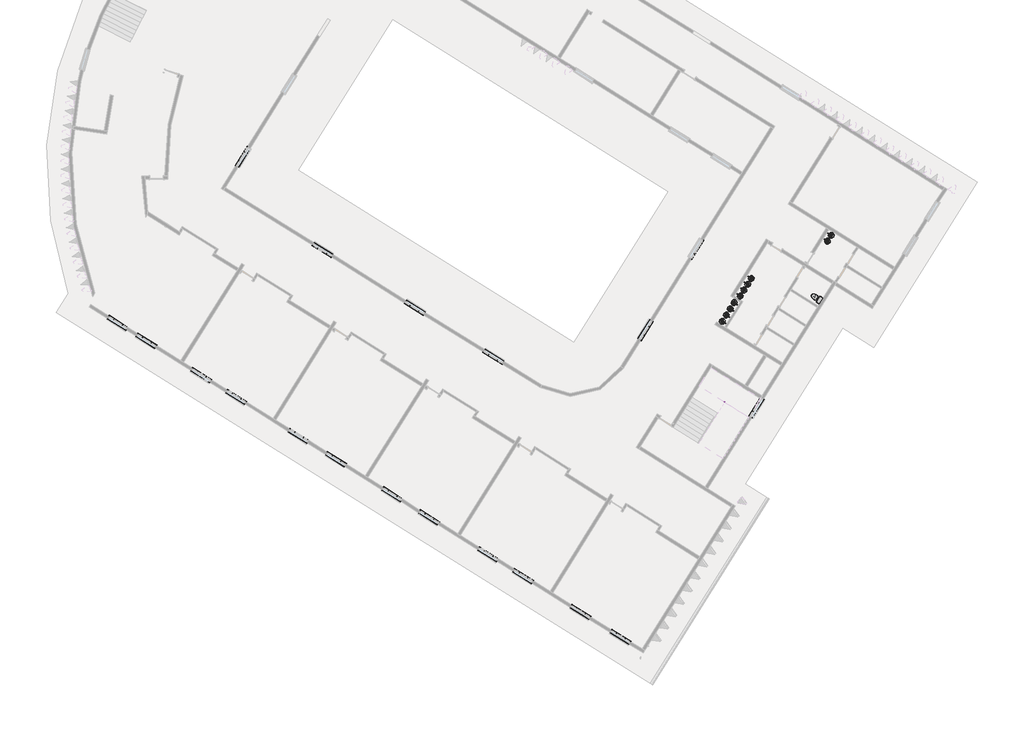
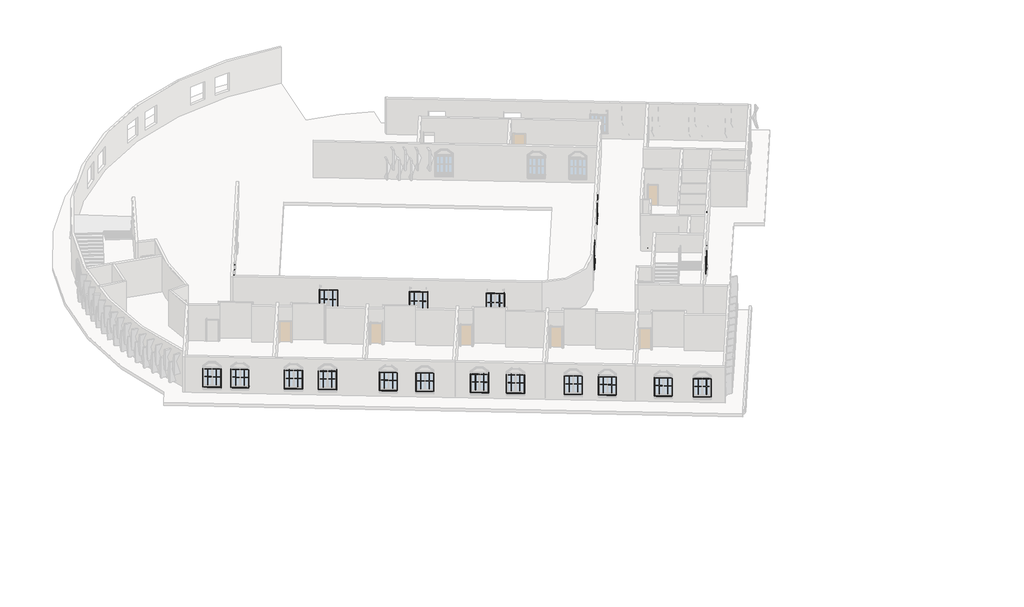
# One storey, part 6 of 7: 74 proxies, 11 flow terminals, 1 member.
"""IFC4 building model written with IfcOpenShell, lengths in millimetres."""

from ifc_helpers import new_model, si_unit, frame, origin, place, context, project, spatial, polyline, outline, extrude, transform, mapped, element, save
from components import m_muntin_pattern_2x2_m_muntin_pattern_2x2_d2d4b859, m_muntin_pattern_2x2_m_muntin_pattern_2x2_f3921bb5, m_trim_window_exterior_flat_with_sill_136e302d, m_trim_window_exterior_flat_with_sill_88aaac3a, m_trim_window_interior_flat_picture_frame_c6c50358, m_trim_window_interior_flat_picture_frame_896fcfd1, ada_tank_toilet_4267_toilet_domestic_3d_1f2812d0, ada_tank_toilet_4267_toilet_domestic_3d_e2a5b10f, sink_bathroom_modern_shelf_2_sink_bathroom_modern_shelf_2_e763d6b9

model = new_model("IFC4")

# Units and contexts
model_context = context("Model", 3, world=origin())
ifc_project = project(units=[si_unit("LENGTHUNIT", "METRE", prefix="MILLI")], contexts=[model_context])

# Site, building, storey
site = spatial("IfcSite", under=ifc_project)
building = spatial("IfcBuilding", under=site)
storey = spatial("IfcBuildingStorey", under=building, Name="\u200fطبقه اول", Elevation=3600.0)

# Proxies
placement = place(None, origin())
m_muntin_pattern_2x2_m_muntin_pattern_2x2_shape = m_muntin_pattern_2x2_m_muntin_pattern_2x2_d2d4b859(model_context)
element("IfcBuildingElementProxy", 1, Name="M_Muntin Pattern_2x2 : M_Muntin Pattern_2x2", ObjectType="M_Muntin Pattern_2x2 : M_Muntin Pattern_2x2", at=placement, inside=storey, context=model_context, shape_type="MappedRepresentation", body=[
    mapped(m_muntin_pattern_2x2_m_muntin_pattern_2x2_shape, transform((6148.6329445, -44887.3965533, 4269.85), x_axis=(0.8480480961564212, -0.5299192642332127, 0.0), y_axis=(0.5299192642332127, 0.8480480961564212, 0.0), z_axis=(0.0, 0.0, 1.0))),
])
element("IfcBuildingElementProxy", 2, Name="M_Muntin Pattern_2x2 : M_Muntin Pattern_2x2", ObjectType="M_Muntin Pattern_2x2 : M_Muntin Pattern_2x2", at=placement, inside=storey, context=model_context, shape_type="MappedRepresentation", body=[
    mapped(m_muntin_pattern_2x2_m_muntin_pattern_2x2_shape, transform((8099.1435657, -46106.210861, 4269.85), x_axis=(0.8480480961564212, -0.5299192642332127, 0.0), y_axis=(0.5299192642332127, 0.8480480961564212, 0.0), z_axis=(0.0, 0.0, 1.0))),
])
element("IfcBuildingElementProxy", 3, Name="M_Muntin Pattern_2x2 : M_Muntin Pattern_2x2", ObjectType="M_Muntin Pattern_2x2 : M_Muntin Pattern_2x2", at=placement, inside=storey, context=model_context, shape_type="MappedRepresentation", body=[
    mapped(m_muntin_pattern_2x2_m_muntin_pattern_2x2_shape, transform((11830.5551888, -48437.8556236, 4269.85), x_axis=(0.8480480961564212, -0.5299192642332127, 0.0), y_axis=(0.5299192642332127, 0.8480480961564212, 0.0), z_axis=(0.0, 0.0, 1.0))),
])
element("IfcBuildingElementProxy", 4, Name="M_Muntin Pattern_2x2 : M_Muntin Pattern_2x2", ObjectType="M_Muntin Pattern_2x2 : M_Muntin Pattern_2x2", at=placement, inside=storey, context=model_context, shape_type="MappedRepresentation", body=[
    mapped(m_muntin_pattern_2x2_m_muntin_pattern_2x2_shape, transform((14205.089858, -49921.6295635, 4269.85), x_axis=(0.8480480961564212, -0.5299192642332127, 0.0), y_axis=(0.5299192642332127, 0.8480480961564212, 0.0), z_axis=(0.0, 0.0, 1.0))),
])
element("IfcBuildingElementProxy", 5, Name="M_Muntin Pattern_2x2 : M_Muntin Pattern_2x2", ObjectType="M_Muntin Pattern_2x2 : M_Muntin Pattern_2x2", at=placement, inside=storey, context=model_context, shape_type="MappedRepresentation", body=[
    mapped(m_muntin_pattern_2x2_m_muntin_pattern_2x2_shape, transform((18445.3303388, -52571.2258846, 4269.85), x_axis=(0.8480480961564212, -0.5299192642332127, 0.0), y_axis=(0.5299192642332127, 0.8480480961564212, 0.0), z_axis=(0.0, 0.0, 1.0))),
])
element("IfcBuildingElementProxy", 6, Name="M_Muntin Pattern_2x2 : M_Muntin Pattern_2x2", ObjectType="M_Muntin Pattern_2x2 : M_Muntin Pattern_2x2", at=placement, inside=storey, context=model_context, shape_type="MappedRepresentation", body=[
    mapped(m_muntin_pattern_2x2_m_muntin_pattern_2x2_shape, transform((20989.4746273, -54160.9836773, 4269.85), x_axis=(0.8480480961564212, -0.5299192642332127, 0.0), y_axis=(0.5299192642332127, 0.8480480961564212, 0.0), z_axis=(0.0, 0.0, 1.0))),
])
element("IfcBuildingElementProxy", 7, Name="M_Muntin Pattern_2x2 : M_Muntin Pattern_2x2", ObjectType="M_Muntin Pattern_2x2 : M_Muntin Pattern_2x2", at=placement, inside=storey, context=model_context, shape_type="MappedRepresentation", body=[
    mapped(m_muntin_pattern_2x2_m_muntin_pattern_2x2_shape, transform((24805.69106, -56545.6203664, 4269.85), x_axis=(0.8480480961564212, -0.5299192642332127, 0.0), y_axis=(0.5299192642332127, 0.8480480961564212, 0.0), z_axis=(0.0, 0.0, 1.0))),
])
element("IfcBuildingElementProxy", 8, Name="M_Muntin Pattern_2x2 : M_Muntin Pattern_2x2", ObjectType="M_Muntin Pattern_2x2 : M_Muntin Pattern_2x2", at=placement, inside=storey, context=model_context, shape_type="MappedRepresentation", body=[
    mapped(m_muntin_pattern_2x2_m_muntin_pattern_2x2_shape, transform((27307.4329436, -58108.8821959, 4269.85), x_axis=(0.8480480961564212, -0.5299192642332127, 0.0), y_axis=(0.5299192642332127, 0.8480480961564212, 0.0), z_axis=(0.0, 0.0, 1.0))),
])
element("IfcBuildingElementProxy", 9, Name="M_Muntin Pattern_2x2 : M_Muntin Pattern_2x2", ObjectType="M_Muntin Pattern_2x2 : M_Muntin Pattern_2x2", at=placement, inside=storey, context=model_context, shape_type="MappedRepresentation", body=[
    mapped(m_muntin_pattern_2x2_m_muntin_pattern_2x2_shape, transform((31335.6614004, -60625.998701, 4269.85), x_axis=(0.8480480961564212, -0.5299192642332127, 0.0), y_axis=(0.5299192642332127, 0.8480480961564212, 0.0), z_axis=(0.0, 0.0, 1.0))),
])
element("IfcBuildingElementProxy", 10, Name="M_Muntin Pattern_2x2 : M_Muntin Pattern_2x2", ObjectType="M_Muntin Pattern_2x2 : M_Muntin Pattern_2x2", at=placement, inside=storey, context=model_context, shape_type="MappedRepresentation", body=[
    mapped(m_muntin_pattern_2x2_m_muntin_pattern_2x2_shape, transform((33710.1960696, -62109.7726408, 4269.85), x_axis=(0.8480480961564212, -0.5299192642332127, 0.0), y_axis=(0.5299192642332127, 0.8480480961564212, 0.0), z_axis=(0.0, 0.0, 1.0))),
])
element("IfcBuildingElementProxy", 11, Name="M_Muntin Pattern_2x2 : M_Muntin Pattern_2x2", ObjectType="M_Muntin Pattern_2x2 : M_Muntin Pattern_2x2", at=placement, inside=storey, context=model_context, shape_type="MappedRepresentation", body=[
    mapped(m_muntin_pattern_2x2_m_muntin_pattern_2x2_shape, transform((37611.2173119, -64547.4012563, 4269.85), x_axis=(0.8480480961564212, -0.5299192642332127, 0.0), y_axis=(0.5299192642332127, 0.8480480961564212, 0.0), z_axis=(0.0, 0.0, 1.0))),
])
element("IfcBuildingElementProxy", 12, Name="M_Muntin Pattern_2x2 : M_Muntin Pattern_2x2", ObjectType="M_Muntin Pattern_2x2 : M_Muntin Pattern_2x2", at=placement, inside=storey, context=model_context, shape_type="MappedRepresentation", body=[
    mapped(m_muntin_pattern_2x2_m_muntin_pattern_2x2_shape, transform((40324.9712196, -66243.1429019, 4269.85), x_axis=(0.8480480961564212, -0.5299192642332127, 0.0), y_axis=(0.5299192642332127, 0.8480480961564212, 0.0), z_axis=(0.0, 0.0, 1.0))),
])
element("IfcBuildingElementProxy", 13, Name="M_Muntin Pattern_2x2 : M_Muntin Pattern_2x2", ObjectType="M_Muntin Pattern_2x2 : M_Muntin Pattern_2x2", at=placement, inside=storey, context=model_context, shape_type="MappedRepresentation", body=[
    mapped(m_muntin_pattern_2x2_m_muntin_pattern_2x2_shape, transform((42537.763851, -45383.5187796, 4269.85), x_axis=(-0.5299192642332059, -0.8480480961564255, 0.0), y_axis=(0.8480480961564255, -0.5299192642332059, 0.0), z_axis=(0.0, 0.0, 1.0))),
])
element("IfcBuildingElementProxy", 14, Name="M_Muntin Pattern_2x2 : M_Muntin Pattern_2x2", ObjectType="M_Muntin Pattern_2x2 : M_Muntin Pattern_2x2", at=placement, inside=storey, context=model_context, shape_type="MappedRepresentation", body=[
    mapped(m_muntin_pattern_2x2_m_muntin_pattern_2x2_shape, transform((32197.2727027, -47699.294205, 4269.85), x_axis=(-0.8480480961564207, 0.5299192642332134, 0.0), y_axis=(-0.5299192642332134, -0.8480480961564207, 0.0), z_axis=(0.0, 0.0, 1.0))),
])
element("IfcBuildingElementProxy", 15, Name="M_Muntin Pattern_2x2 : M_Muntin Pattern_2x2", ObjectType="M_Muntin Pattern_2x2 : M_Muntin Pattern_2x2", at=placement, inside=storey, context=model_context, shape_type="MappedRepresentation", body=[
    mapped(m_muntin_pattern_2x2_m_muntin_pattern_2x2_shape, transform((26854.5696969, -44360.8028403, 4269.85), x_axis=(-0.8480480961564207, 0.5299192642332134, 0.0), y_axis=(-0.5299192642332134, -0.8480480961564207, 0.0), z_axis=(0.0, 0.0, 1.0))),
])
element("IfcBuildingElementProxy", 16, Name="M_Muntin Pattern_2x2 : M_Muntin Pattern_2x2", ObjectType="M_Muntin Pattern_2x2 : M_Muntin Pattern_2x2", at=placement, inside=storey, context=model_context, shape_type="MappedRepresentation", body=[
    mapped(m_muntin_pattern_2x2_m_muntin_pattern_2x2_shape, transform((20579.0137853, -40439.400285, 4269.85), x_axis=(-0.8480480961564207, 0.5299192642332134, 0.0), y_axis=(-0.5299192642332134, -0.8480480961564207, 0.0), z_axis=(0.0, 0.0, 1.0))),
])
element("IfcBuildingElementProxy", 17, Name="M_Muntin Pattern_2x2 : M_Muntin Pattern_2x2", ObjectType="M_Muntin Pattern_2x2 : M_Muntin Pattern_2x2", at=placement, inside=storey, context=model_context, shape_type="MappedRepresentation", body=[
    mapped(m_muntin_pattern_2x2_m_muntin_pattern_2x2_shape, transform((14655.6274228, -34094.2678537, 4269.85), x_axis=(0.52991926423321, 0.8480480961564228, 0.0), y_axis=(-0.8480480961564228, 0.52991926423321, 0.0), z_axis=(0.0, 0.0, 1.0))),
])
element("IfcBuildingElementProxy", 18, Name="M_Muntin Pattern_2x2 : M_Muntin Pattern_2x2", ObjectType="M_Muntin Pattern_2x2 : M_Muntin Pattern_2x2", at=placement, inside=storey, context=model_context, shape_type="MappedRepresentation", body=[
    mapped(m_muntin_pattern_2x2_m_muntin_pattern_2x2_shape, transform((49571.9375757, -51146.1608436, 4269.85), x_axis=(0.5299192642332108, 0.8480480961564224, 0.0), y_axis=(-0.8480480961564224, 0.5299192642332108, 0.0), z_axis=(0.0, 0.0, 1.0))),
])
m_muntin_pattern_2x2_m_muntin_pattern_2x2_2_shape = m_muntin_pattern_2x2_m_muntin_pattern_2x2_f3921bb5(model_context)
element("IfcBuildingElementProxy", 19, Name="M_Muntin Pattern_2x2 : M_Muntin Pattern_2x2", ObjectType="M_Muntin Pattern_2x2 : M_Muntin Pattern_2x2", at=placement, inside=storey, context=model_context, shape_type="MappedRepresentation", body=[
    mapped(m_muntin_pattern_2x2_m_muntin_pattern_2x2_2_shape, transform((6739.5740591, -45256.6575446, 4269.85), x_axis=(-0.8480480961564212, 0.5299192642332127, 0.0), y_axis=(-0.5299192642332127, -0.8480480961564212, 0.0), z_axis=(0.0, 0.0, 1.0))),
])
element("IfcBuildingElementProxy", 20, Name="M_Muntin Pattern_2x2 : M_Muntin Pattern_2x2", ObjectType="M_Muntin Pattern_2x2 : M_Muntin Pattern_2x2", at=placement, inside=storey, context=model_context, shape_type="MappedRepresentation", body=[
    mapped(m_muntin_pattern_2x2_m_muntin_pattern_2x2_2_shape, transform((8690.0846803, -46475.4718523, 4269.85), x_axis=(-0.8480480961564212, 0.5299192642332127, 0.0), y_axis=(-0.5299192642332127, -0.8480480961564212, 0.0), z_axis=(0.0, 0.0, 1.0))),
])
element("IfcBuildingElementProxy", 21, Name="M_Muntin Pattern_2x2 : M_Muntin Pattern_2x2", ObjectType="M_Muntin Pattern_2x2 : M_Muntin Pattern_2x2", at=placement, inside=storey, context=model_context, shape_type="MappedRepresentation", body=[
    mapped(m_muntin_pattern_2x2_m_muntin_pattern_2x2_2_shape, transform((12421.4963034, -48807.1166149, 4269.85), x_axis=(-0.8480480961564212, 0.5299192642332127, 0.0), y_axis=(-0.5299192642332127, -0.8480480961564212, 0.0), z_axis=(0.0, 0.0, 1.0))),
])
element("IfcBuildingElementProxy", 22, Name="M_Muntin Pattern_2x2 : M_Muntin Pattern_2x2", ObjectType="M_Muntin Pattern_2x2 : M_Muntin Pattern_2x2", at=placement, inside=storey, context=model_context, shape_type="MappedRepresentation", body=[
    mapped(m_muntin_pattern_2x2_m_muntin_pattern_2x2_2_shape, transform((14796.0309726, -50290.8905548, 4269.85), x_axis=(-0.8480480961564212, 0.5299192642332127, 0.0), y_axis=(-0.5299192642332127, -0.8480480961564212, 0.0), z_axis=(0.0, 0.0, 1.0))),
])
element("IfcBuildingElementProxy", 23, Name="M_Muntin Pattern_2x2 : M_Muntin Pattern_2x2", ObjectType="M_Muntin Pattern_2x2 : M_Muntin Pattern_2x2", at=placement, inside=storey, context=model_context, shape_type="MappedRepresentation", body=[
    mapped(m_muntin_pattern_2x2_m_muntin_pattern_2x2_2_shape, transform((19036.2714534, -52940.4868759, 4269.85), x_axis=(-0.8480480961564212, 0.5299192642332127, 0.0), y_axis=(-0.5299192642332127, -0.8480480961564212, 0.0), z_axis=(0.0, 0.0, 1.0))),
])
element("IfcBuildingElementProxy", 24, Name="M_Muntin Pattern_2x2 : M_Muntin Pattern_2x2", ObjectType="M_Muntin Pattern_2x2 : M_Muntin Pattern_2x2", at=placement, inside=storey, context=model_context, shape_type="MappedRepresentation", body=[
    mapped(m_muntin_pattern_2x2_m_muntin_pattern_2x2_2_shape, transform((21580.4157419, -54530.2446686, 4269.85), x_axis=(-0.8480480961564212, 0.5299192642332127, 0.0), y_axis=(-0.5299192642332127, -0.8480480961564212, 0.0), z_axis=(0.0, 0.0, 1.0))),
])
element("IfcBuildingElementProxy", 25, Name="M_Muntin Pattern_2x2 : M_Muntin Pattern_2x2", ObjectType="M_Muntin Pattern_2x2 : M_Muntin Pattern_2x2", at=placement, inside=storey, context=model_context, shape_type="MappedRepresentation", body=[
    mapped(m_muntin_pattern_2x2_m_muntin_pattern_2x2_2_shape, transform((25396.6321746, -56914.8813577, 4269.85), x_axis=(-0.8480480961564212, 0.5299192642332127, 0.0), y_axis=(-0.5299192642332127, -0.8480480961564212, 0.0), z_axis=(0.0, 0.0, 1.0))),
])
element("IfcBuildingElementProxy", 26, Name="M_Muntin Pattern_2x2 : M_Muntin Pattern_2x2", ObjectType="M_Muntin Pattern_2x2 : M_Muntin Pattern_2x2", at=placement, inside=storey, context=model_context, shape_type="MappedRepresentation", body=[
    mapped(m_muntin_pattern_2x2_m_muntin_pattern_2x2_2_shape, transform((27898.3740582, -58478.1431872, 4269.85), x_axis=(-0.8480480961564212, 0.5299192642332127, 0.0), y_axis=(-0.5299192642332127, -0.8480480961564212, 0.0), z_axis=(0.0, 0.0, 1.0))),
])
element("IfcBuildingElementProxy", 27, Name="M_Muntin Pattern_2x2 : M_Muntin Pattern_2x2", ObjectType="M_Muntin Pattern_2x2 : M_Muntin Pattern_2x2", at=placement, inside=storey, context=model_context, shape_type="MappedRepresentation", body=[
    mapped(m_muntin_pattern_2x2_m_muntin_pattern_2x2_2_shape, transform((31926.602515, -60995.2596923, 4269.85), x_axis=(-0.8480480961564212, 0.5299192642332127, 0.0), y_axis=(-0.5299192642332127, -0.8480480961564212, 0.0), z_axis=(0.0, 0.0, 1.0))),
])
element("IfcBuildingElementProxy", 28, Name="M_Muntin Pattern_2x2 : M_Muntin Pattern_2x2", ObjectType="M_Muntin Pattern_2x2 : M_Muntin Pattern_2x2", at=placement, inside=storey, context=model_context, shape_type="MappedRepresentation", body=[
    mapped(m_muntin_pattern_2x2_m_muntin_pattern_2x2_2_shape, transform((34301.1371842, -62479.0336321, 4269.85), x_axis=(-0.8480480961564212, 0.5299192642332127, 0.0), y_axis=(-0.5299192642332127, -0.8480480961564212, 0.0), z_axis=(0.0, 0.0, 1.0))),
])
element("IfcBuildingElementProxy", 29, Name="M_Muntin Pattern_2x2 : M_Muntin Pattern_2x2", ObjectType="M_Muntin Pattern_2x2 : M_Muntin Pattern_2x2", at=placement, inside=storey, context=model_context, shape_type="MappedRepresentation", body=[
    mapped(m_muntin_pattern_2x2_m_muntin_pattern_2x2_2_shape, transform((38202.1584265, -64916.6622476, 4269.85), x_axis=(-0.8480480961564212, 0.5299192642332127, 0.0), y_axis=(-0.5299192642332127, -0.8480480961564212, 0.0), z_axis=(0.0, 0.0, 1.0))),
])
element("IfcBuildingElementProxy", 30, Name="M_Muntin Pattern_2x2 : M_Muntin Pattern_2x2", ObjectType="M_Muntin Pattern_2x2 : M_Muntin Pattern_2x2", at=placement, inside=storey, context=model_context, shape_type="MappedRepresentation", body=[
    mapped(m_muntin_pattern_2x2_m_muntin_pattern_2x2_2_shape, transform((40915.9123342, -66612.4038932, 4269.85), x_axis=(-0.8480480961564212, 0.5299192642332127, 0.0), y_axis=(-0.5299192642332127, -0.8480480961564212, 0.0), z_axis=(0.0, 0.0, 1.0))),
])
element("IfcBuildingElementProxy", 31, Name="M_Muntin Pattern_2x2 : M_Muntin Pattern_2x2", ObjectType="M_Muntin Pattern_2x2 : M_Muntin Pattern_2x2", at=placement, inside=storey, context=model_context, shape_type="MappedRepresentation", body=[
    mapped(m_muntin_pattern_2x2_m_muntin_pattern_2x2_2_shape, transform((45617.9442334, -40454.1997581, 4269.85), x_axis=(0.5299192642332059, 0.8480480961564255, 0.0), y_axis=(-0.8480480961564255, 0.5299192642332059, 0.0), z_axis=(0.0, 0.0, 1.0))),
])
element("IfcBuildingElementProxy", 32, Name="M_Muntin Pattern_2x2 : M_Muntin Pattern_2x2", ObjectType="M_Muntin Pattern_2x2 : M_Muntin Pattern_2x2", at=placement, inside=storey, context=model_context, shape_type="MappedRepresentation", body=[
    mapped(m_muntin_pattern_2x2_m_muntin_pattern_2x2_2_shape, transform((42168.5028597, -45974.4598942, 4269.85), x_axis=(0.5299192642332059, 0.8480480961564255, 0.0), y_axis=(-0.8480480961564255, 0.5299192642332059, 0.0), z_axis=(0.0, 0.0, 1.0))),
])
element("IfcBuildingElementProxy", 33, Name="M_Muntin Pattern_2x2 : M_Muntin Pattern_2x2", ObjectType="M_Muntin Pattern_2x2 : M_Muntin Pattern_2x2", at=placement, inside=storey, context=model_context, shape_type="MappedRepresentation", body=[
    mapped(m_muntin_pattern_2x2_m_muntin_pattern_2x2_2_shape, transform((31606.3315881, -47330.0332137, 4269.85), x_axis=(0.8480480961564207, -0.5299192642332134, 0.0), y_axis=(0.5299192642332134, 0.8480480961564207, 0.0), z_axis=(0.0, 0.0, 1.0))),
])
element("IfcBuildingElementProxy", 34, Name="M_Muntin Pattern_2x2 : M_Muntin Pattern_2x2", ObjectType="M_Muntin Pattern_2x2 : M_Muntin Pattern_2x2", at=placement, inside=storey, context=model_context, shape_type="MappedRepresentation", body=[
    mapped(m_muntin_pattern_2x2_m_muntin_pattern_2x2_2_shape, transform((26263.6285823, -43991.541849, 4269.85), x_axis=(0.8480480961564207, -0.5299192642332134, 0.0), y_axis=(0.5299192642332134, 0.8480480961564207, 0.0), z_axis=(0.0, 0.0, 1.0))),
])
element("IfcBuildingElementProxy", 35, Name="M_Muntin Pattern_2x2 : M_Muntin Pattern_2x2", ObjectType="M_Muntin Pattern_2x2 : M_Muntin Pattern_2x2", at=placement, inside=storey, context=model_context, shape_type="MappedRepresentation", body=[
    mapped(m_muntin_pattern_2x2_m_muntin_pattern_2x2_2_shape, transform((19988.0726707, -40070.1392937, 4269.85), x_axis=(0.8480480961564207, -0.5299192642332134, 0.0), y_axis=(0.5299192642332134, 0.8480480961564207, 0.0), z_axis=(0.0, 0.0, 1.0))),
])
element("IfcBuildingElementProxy", 36, Name="M_Muntin Pattern_2x2 : M_Muntin Pattern_2x2", ObjectType="M_Muntin Pattern_2x2 : M_Muntin Pattern_2x2", at=placement, inside=storey, context=model_context, shape_type="MappedRepresentation", body=[
    mapped(m_muntin_pattern_2x2_m_muntin_pattern_2x2_2_shape, transform((15024.8884141, -33503.3267391, 4269.85), x_axis=(-0.52991926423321, -0.8480480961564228, 0.0), y_axis=(0.8480480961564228, -0.52991926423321, 0.0), z_axis=(0.0, 0.0, 1.0))),
])
element("IfcBuildingElementProxy", 37, Name="M_Muntin Pattern_2x2 : M_Muntin Pattern_2x2", ObjectType="M_Muntin Pattern_2x2 : M_Muntin Pattern_2x2", at=placement, inside=storey, context=model_context, shape_type="MappedRepresentation", body=[
    mapped(m_muntin_pattern_2x2_m_muntin_pattern_2x2_2_shape, transform((49941.198567, -50555.219729, 4269.85), x_axis=(-0.5299192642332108, -0.8480480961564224, 0.0), y_axis=(0.8480480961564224, -0.5299192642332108, 0.0), z_axis=(0.0, 0.0, 1.0))),
])
m_trim_window_exterior_flat_with_sill_shape = m_trim_window_exterior_flat_with_sill_136e302d(model_context)
element("IfcBuildingElementProxy", 38, Name="M_Trim-Window-Exterior-Flat : with Sill", ObjectType="M_Trim-Window-Exterior-Flat : with Sill", at=placement, inside=storey, context=model_context, shape_type="MappedRepresentation", body=[
    mapped(m_trim_window_exterior_flat_with_sill_shape, transform((6449.1509828, -45063.9493908, 6000.0), x_axis=(-0.8480480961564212, 0.5299192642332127, 0.0), y_axis=(0.0, 0.0, 1.0), z_axis=(0.5299192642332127, 0.8480480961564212, 0.0))),
])
element("IfcBuildingElementProxy", 39, Name="M_Trim-Window-Exterior-Flat : with Sill", ObjectType="M_Trim-Window-Exterior-Flat : with Sill", at=placement, inside=storey, context=model_context, shape_type="MappedRepresentation", body=[
    mapped(m_trim_window_exterior_flat_with_sill_shape, transform((8399.661604, -46282.7636985, 6000.0), x_axis=(-0.8480480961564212, 0.5299192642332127, 0.0), y_axis=(0.0, 0.0, 1.0), z_axis=(0.5299192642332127, 0.8480480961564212, 0.0))),
])
element("IfcBuildingElementProxy", 40, Name="M_Trim-Window-Exterior-Flat : with Sill", ObjectType="M_Trim-Window-Exterior-Flat : with Sill", at=placement, inside=storey, context=model_context, shape_type="MappedRepresentation", body=[
    mapped(m_trim_window_exterior_flat_with_sill_shape, transform((12131.0732271, -48614.4084612, 6000.0), x_axis=(-0.8480480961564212, 0.5299192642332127, 0.0), y_axis=(0.0, 0.0, 1.0), z_axis=(0.5299192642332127, 0.8480480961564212, 0.0))),
])
element("IfcBuildingElementProxy", 41, Name="M_Trim-Window-Exterior-Flat : with Sill", ObjectType="M_Trim-Window-Exterior-Flat : with Sill", at=placement, inside=storey, context=model_context, shape_type="MappedRepresentation", body=[
    mapped(m_trim_window_exterior_flat_with_sill_shape, transform((14505.6078963, -50098.182401, 6000.0), x_axis=(-0.8480480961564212, 0.5299192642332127, 0.0), y_axis=(0.0, 0.0, 1.0), z_axis=(0.5299192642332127, 0.8480480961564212, 0.0))),
])
element("IfcBuildingElementProxy", 42, Name="M_Trim-Window-Exterior-Flat : with Sill", ObjectType="M_Trim-Window-Exterior-Flat : with Sill", at=placement, inside=storey, context=model_context, shape_type="MappedRepresentation", body=[
    mapped(m_trim_window_exterior_flat_with_sill_shape, transform((18745.8483771, -52747.7787222, 6000.0), x_axis=(-0.8480480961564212, 0.5299192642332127, 0.0), y_axis=(0.0, 0.0, 1.0), z_axis=(0.5299192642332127, 0.8480480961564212, 0.0))),
])
element("IfcBuildingElementProxy", 43, Name="M_Trim-Window-Exterior-Flat : with Sill", ObjectType="M_Trim-Window-Exterior-Flat : with Sill", at=placement, inside=storey, context=model_context, shape_type="MappedRepresentation", body=[
    mapped(m_trim_window_exterior_flat_with_sill_shape, transform((21289.9926656, -54337.5365149, 6000.0), x_axis=(-0.8480480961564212, 0.5299192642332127, 0.0), y_axis=(0.0, 0.0, 1.0), z_axis=(0.5299192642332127, 0.8480480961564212, 0.0))),
])
element("IfcBuildingElementProxy", 44, Name="M_Trim-Window-Exterior-Flat : with Sill", ObjectType="M_Trim-Window-Exterior-Flat : with Sill", at=placement, inside=storey, context=model_context, shape_type="MappedRepresentation", body=[
    mapped(m_trim_window_exterior_flat_with_sill_shape, transform((25106.2090983, -56722.1732039, 6000.0), x_axis=(-0.8480480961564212, 0.5299192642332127, 0.0), y_axis=(0.0, 0.0, 1.0), z_axis=(0.5299192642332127, 0.8480480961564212, 0.0))),
])
element("IfcBuildingElementProxy", 45, Name="M_Trim-Window-Exterior-Flat : with Sill", ObjectType="M_Trim-Window-Exterior-Flat : with Sill", at=placement, inside=storey, context=model_context, shape_type="MappedRepresentation", body=[
    mapped(m_trim_window_exterior_flat_with_sill_shape, transform((27607.9509819, -58285.4350334, 6000.0), x_axis=(-0.8480480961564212, 0.5299192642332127, 0.0), y_axis=(0.0, 0.0, 1.0), z_axis=(0.5299192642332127, 0.8480480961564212, 0.0))),
])
element("IfcBuildingElementProxy", 46, Name="M_Trim-Window-Exterior-Flat : with Sill", ObjectType="M_Trim-Window-Exterior-Flat : with Sill", at=placement, inside=storey, context=model_context, shape_type="MappedRepresentation", body=[
    mapped(m_trim_window_exterior_flat_with_sill_shape, transform((31636.1794387, -60802.5515385, 6000.0), x_axis=(-0.8480480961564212, 0.5299192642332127, 0.0), y_axis=(0.0, 0.0, 1.0), z_axis=(0.5299192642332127, 0.8480480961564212, 0.0))),
])
element("IfcBuildingElementProxy", 47, Name="M_Trim-Window-Exterior-Flat : with Sill", ObjectType="M_Trim-Window-Exterior-Flat : with Sill", at=placement, inside=storey, context=model_context, shape_type="MappedRepresentation", body=[
    mapped(m_trim_window_exterior_flat_with_sill_shape, transform((34010.7141079, -62286.3254784, 6000.0), x_axis=(-0.8480480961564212, 0.5299192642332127, 0.0), y_axis=(0.0, 0.0, 1.0), z_axis=(0.5299192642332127, 0.8480480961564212, 0.0))),
])
element("IfcBuildingElementProxy", 48, Name="M_Trim-Window-Exterior-Flat : with Sill", ObjectType="M_Trim-Window-Exterior-Flat : with Sill", at=placement, inside=storey, context=model_context, shape_type="MappedRepresentation", body=[
    mapped(m_trim_window_exterior_flat_with_sill_shape, transform((37911.7353502, -64723.9540939, 6000.0), x_axis=(-0.8480480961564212, 0.5299192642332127, 0.0), y_axis=(0.0, 0.0, 1.0), z_axis=(0.5299192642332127, 0.8480480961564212, 0.0))),
])
element("IfcBuildingElementProxy", 49, Name="M_Trim-Window-Exterior-Flat : with Sill", ObjectType="M_Trim-Window-Exterior-Flat : with Sill", at=placement, inside=storey, context=model_context, shape_type="MappedRepresentation", body=[
    mapped(m_trim_window_exterior_flat_with_sill_shape, transform((40625.4892579, -66419.6957394, 6000.0), x_axis=(-0.8480480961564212, 0.5299192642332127, 0.0), y_axis=(0.0, 0.0, 1.0), z_axis=(0.5299192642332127, 0.8480480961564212, 0.0))),
])
element("IfcBuildingElementProxy", 50, Name="M_Trim-Window-Exterior-Flat : with Sill", ObjectType="M_Trim-Window-Exterior-Flat : with Sill", at=placement, inside=storey, context=model_context, shape_type="MappedRepresentation", body=[
    mapped(m_trim_window_exterior_flat_with_sill_shape, transform((45810.6523871, -40163.7766818, 6000.0), x_axis=(0.5299192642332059, 0.8480480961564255, 0.0), y_axis=(0.0, 0.0, 1.0), z_axis=(0.8480480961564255, -0.5299192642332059, 0.0))),
])
element("IfcBuildingElementProxy", 51, Name="M_Trim-Window-Exterior-Flat : with Sill", ObjectType="M_Trim-Window-Exterior-Flat : with Sill", at=placement, inside=storey, context=model_context, shape_type="MappedRepresentation", body=[
    mapped(m_trim_window_exterior_flat_with_sill_shape, transform((42361.2110135, -45684.0368179, 6000.0), x_axis=(0.5299192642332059, 0.8480480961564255, 0.0), y_axis=(0.0, 0.0, 1.0), z_axis=(0.8480480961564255, -0.5299192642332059, 0.0))),
])
element("IfcBuildingElementProxy", 52, Name="M_Trim-Window-Exterior-Flat : with Sill", ObjectType="M_Trim-Window-Exterior-Flat : with Sill", at=placement, inside=storey, context=model_context, shape_type="MappedRepresentation", body=[
    mapped(m_trim_window_exterior_flat_with_sill_shape, transform((31896.7546644, -47522.7413675, 6000.0), x_axis=(0.8480480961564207, -0.5299192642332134, 0.0), y_axis=(0.0, 0.0, 1.0), z_axis=(-0.5299192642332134, -0.8480480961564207, 0.0))),
])
element("IfcBuildingElementProxy", 53, Name="M_Trim-Window-Exterior-Flat : with Sill", ObjectType="M_Trim-Window-Exterior-Flat : with Sill", at=placement, inside=storey, context=model_context, shape_type="MappedRepresentation", body=[
    mapped(m_trim_window_exterior_flat_with_sill_shape, transform((26554.0516586, -44184.2500028, 6000.0), x_axis=(0.8480480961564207, -0.5299192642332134, 0.0), y_axis=(0.0, 0.0, 1.0), z_axis=(-0.5299192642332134, -0.8480480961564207, 0.0))),
])
element("IfcBuildingElementProxy", 54, Name="M_Trim-Window-Exterior-Flat : with Sill", ObjectType="M_Trim-Window-Exterior-Flat : with Sill", at=placement, inside=storey, context=model_context, shape_type="MappedRepresentation", body=[
    mapped(m_trim_window_exterior_flat_with_sill_shape, transform((20278.495747, -40262.8474475, 6000.0), x_axis=(0.8480480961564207, -0.5299192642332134, 0.0), y_axis=(0.0, 0.0, 1.0), z_axis=(-0.5299192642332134, -0.8480480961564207, 0.0))),
])
m_trim_window_exterior_flat_with_sill_2_shape = m_trim_window_exterior_flat_with_sill_88aaac3a(model_context)
element("IfcBuildingElementProxy", 55, Name="M_Trim-Window-Exterior-Flat : with Sill", ObjectType="M_Trim-Window-Exterior-Flat : with Sill", at=placement, inside=storey, context=model_context, shape_type="MappedRepresentation", body=[
    mapped(m_trim_window_exterior_flat_with_sill_2_shape, transform((14832.1802604, -33793.7498154, 6000.0), x_axis=(0.52991926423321, 0.8480480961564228, 0.0), y_axis=(0.0, 0.0, -1.0), z_axis=(-0.8480480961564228, 0.52991926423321, 0.0))),
])
element("IfcBuildingElementProxy", 56, Name="M_Trim-Window-Exterior-Flat : with Sill", ObjectType="M_Trim-Window-Exterior-Flat : with Sill", at=placement, inside=storey, context=model_context, shape_type="MappedRepresentation", body=[
    mapped(m_trim_window_exterior_flat_with_sill_2_shape, transform((49748.4904133, -50845.6428053, 6000.0), x_axis=(0.5299192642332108, 0.8480480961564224, 0.0), y_axis=(0.0, 0.0, -1.0), z_axis=(-0.8480480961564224, 0.5299192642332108, 0.0))),
])
m_trim_window_interior_flat_picture_frame_shape = m_trim_window_interior_flat_picture_frame_c6c50358(model_context)
element("IfcBuildingElementProxy", 57, Name="M_Trim-Window-Interior-Flat : Picture Frame", ObjectType="M_Trim-Window-Interior-Flat : Picture Frame", at=placement, inside=storey, context=model_context, shape_type="MappedRepresentation", body=[
    mapped(m_trim_window_interior_flat_picture_frame_shape, transform((6343.16713, -45233.55901, 6000.0), x_axis=(0.8480480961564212, -0.5299192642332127, 0.0), y_axis=(0.0, 0.0, 1.0), z_axis=(-0.5299192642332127, -0.8480480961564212, 0.0))),
])
element("IfcBuildingElementProxy", 58, Name="M_Trim-Window-Interior-Flat : Picture Frame", ObjectType="M_Trim-Window-Interior-Flat : Picture Frame", at=placement, inside=storey, context=model_context, shape_type="MappedRepresentation", body=[
    mapped(m_trim_window_interior_flat_picture_frame_shape, transform((8293.6777511, -46452.3733178, 6000.0), x_axis=(0.8480480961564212, -0.5299192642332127, 0.0), y_axis=(0.0, 0.0, 1.0), z_axis=(-0.5299192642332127, -0.8480480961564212, 0.0))),
])
element("IfcBuildingElementProxy", 59, Name="M_Trim-Window-Interior-Flat : Picture Frame", ObjectType="M_Trim-Window-Interior-Flat : Picture Frame", at=placement, inside=storey, context=model_context, shape_type="MappedRepresentation", body=[
    mapped(m_trim_window_interior_flat_picture_frame_shape, transform((12025.0893742, -48784.0180804, 6000.0), x_axis=(0.8480480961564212, -0.5299192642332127, 0.0), y_axis=(0.0, 0.0, 1.0), z_axis=(-0.5299192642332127, -0.8480480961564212, 0.0))),
])
element("IfcBuildingElementProxy", 60, Name="M_Trim-Window-Interior-Flat : Picture Frame", ObjectType="M_Trim-Window-Interior-Flat : Picture Frame", at=placement, inside=storey, context=model_context, shape_type="MappedRepresentation", body=[
    mapped(m_trim_window_interior_flat_picture_frame_shape, transform((14399.6240435, -50267.7920202, 6000.0), x_axis=(0.8480480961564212, -0.5299192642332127, 0.0), y_axis=(0.0, 0.0, 1.0), z_axis=(-0.5299192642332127, -0.8480480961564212, 0.0))),
])
element("IfcBuildingElementProxy", 61, Name="M_Trim-Window-Interior-Flat : Picture Frame", ObjectType="M_Trim-Window-Interior-Flat : Picture Frame", at=placement, inside=storey, context=model_context, shape_type="MappedRepresentation", body=[
    mapped(m_trim_window_interior_flat_picture_frame_shape, transform((18639.8645242, -52917.3883414, 6000.0), x_axis=(0.8480480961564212, -0.5299192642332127, 0.0), y_axis=(0.0, 0.0, 1.0), z_axis=(-0.5299192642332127, -0.8480480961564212, 0.0))),
])
element("IfcBuildingElementProxy", 62, Name="M_Trim-Window-Interior-Flat : Picture Frame", ObjectType="M_Trim-Window-Interior-Flat : Picture Frame", at=placement, inside=storey, context=model_context, shape_type="MappedRepresentation", body=[
    mapped(m_trim_window_interior_flat_picture_frame_shape, transform((21184.0088127, -54507.1461341, 6000.0), x_axis=(0.8480480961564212, -0.5299192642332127, 0.0), y_axis=(0.0, 0.0, 1.0), z_axis=(-0.5299192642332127, -0.8480480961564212, 0.0))),
])
element("IfcBuildingElementProxy", 63, Name="M_Trim-Window-Interior-Flat : Picture Frame", ObjectType="M_Trim-Window-Interior-Flat : Picture Frame", at=placement, inside=storey, context=model_context, shape_type="MappedRepresentation", body=[
    mapped(m_trim_window_interior_flat_picture_frame_shape, transform((25000.2252454, -56891.7828232, 6000.0), x_axis=(0.8480480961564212, -0.5299192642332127, 0.0), y_axis=(0.0, 0.0, 1.0), z_axis=(-0.5299192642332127, -0.8480480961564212, 0.0))),
])
element("IfcBuildingElementProxy", 64, Name="M_Trim-Window-Interior-Flat : Picture Frame", ObjectType="M_Trim-Window-Interior-Flat : Picture Frame", at=placement, inside=storey, context=model_context, shape_type="MappedRepresentation", body=[
    mapped(m_trim_window_interior_flat_picture_frame_shape, transform((27501.9671291, -58455.0446527, 6000.0), x_axis=(0.8480480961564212, -0.5299192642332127, 0.0), y_axis=(0.0, 0.0, 1.0), z_axis=(-0.5299192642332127, -0.8480480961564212, 0.0))),
])
element("IfcBuildingElementProxy", 65, Name="M_Trim-Window-Interior-Flat : Picture Frame", ObjectType="M_Trim-Window-Interior-Flat : Picture Frame", at=placement, inside=storey, context=model_context, shape_type="MappedRepresentation", body=[
    mapped(m_trim_window_interior_flat_picture_frame_shape, transform((31530.1955858, -60972.1611578, 6000.0), x_axis=(0.8480480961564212, -0.5299192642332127, 0.0), y_axis=(0.0, 0.0, 1.0), z_axis=(-0.5299192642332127, -0.8480480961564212, 0.0))),
])
element("IfcBuildingElementProxy", 66, Name="M_Trim-Window-Interior-Flat : Picture Frame", ObjectType="M_Trim-Window-Interior-Flat : Picture Frame", at=placement, inside=storey, context=model_context, shape_type="MappedRepresentation", body=[
    mapped(m_trim_window_interior_flat_picture_frame_shape, transform((33904.7302551, -62455.9350976, 6000.0), x_axis=(0.8480480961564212, -0.5299192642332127, 0.0), y_axis=(0.0, 0.0, 1.0), z_axis=(-0.5299192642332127, -0.8480480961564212, 0.0))),
])
element("IfcBuildingElementProxy", 67, Name="M_Trim-Window-Interior-Flat : Picture Frame", ObjectType="M_Trim-Window-Interior-Flat : Picture Frame", at=placement, inside=storey, context=model_context, shape_type="MappedRepresentation", body=[
    mapped(m_trim_window_interior_flat_picture_frame_shape, transform((37805.7514974, -64893.5637131, 6000.0), x_axis=(0.8480480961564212, -0.5299192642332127, 0.0), y_axis=(0.0, 0.0, 1.0), z_axis=(-0.5299192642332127, -0.8480480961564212, 0.0))),
])
element("IfcBuildingElementProxy", 68, Name="M_Trim-Window-Interior-Flat : Picture Frame", ObjectType="M_Trim-Window-Interior-Flat : Picture Frame", at=placement, inside=storey, context=model_context, shape_type="MappedRepresentation", body=[
    mapped(m_trim_window_interior_flat_picture_frame_shape, transform((40519.5054051, -66589.3053586, 6000.0), x_axis=(0.8480480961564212, -0.5299192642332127, 0.0), y_axis=(0.0, 0.0, 1.0), z_axis=(-0.5299192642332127, -0.8480480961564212, 0.0))),
])
element("IfcBuildingElementProxy", 69, Name="M_Trim-Window-Interior-Flat : Picture Frame", ObjectType="M_Trim-Window-Interior-Flat : Picture Frame", at=placement, inside=storey, context=model_context, shape_type="MappedRepresentation", body=[
    mapped(m_trim_window_interior_flat_picture_frame_shape, transform((42191.6013943, -45578.0529651, 6000.0), x_axis=(-0.5299192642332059, -0.8480480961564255, 0.0), y_axis=(0.0, 0.0, 1.0), z_axis=(-0.8480480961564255, 0.5299192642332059, 0.0))),
])
element("IfcBuildingElementProxy", 70, Name="M_Trim-Window-Interior-Flat : Picture Frame", ObjectType="M_Trim-Window-Interior-Flat : Picture Frame", at=placement, inside=storey, context=model_context, shape_type="MappedRepresentation", body=[
    mapped(m_trim_window_interior_flat_picture_frame_shape, transform((32002.7385172, -47353.1317482, 6000.0), x_axis=(-0.8480480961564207, 0.5299192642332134, 0.0), y_axis=(0.0, 0.0, 1.0), z_axis=(0.5299192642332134, 0.8480480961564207, 0.0))),
])
element("IfcBuildingElementProxy", 71, Name="M_Trim-Window-Interior-Flat : Picture Frame", ObjectType="M_Trim-Window-Interior-Flat : Picture Frame", at=placement, inside=storey, context=model_context, shape_type="MappedRepresentation", body=[
    mapped(m_trim_window_interior_flat_picture_frame_shape, transform((26660.0355114, -44014.6403836, 6000.0), x_axis=(-0.8480480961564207, 0.5299192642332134, 0.0), y_axis=(0.0, 0.0, 1.0), z_axis=(0.5299192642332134, 0.8480480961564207, 0.0))),
])
element("IfcBuildingElementProxy", 72, Name="M_Trim-Window-Interior-Flat : Picture Frame", ObjectType="M_Trim-Window-Interior-Flat : Picture Frame", at=placement, inside=storey, context=model_context, shape_type="MappedRepresentation", body=[
    mapped(m_trim_window_interior_flat_picture_frame_shape, transform((20384.4795999, -40093.2378282, 6000.0), x_axis=(-0.8480480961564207, 0.5299192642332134, 0.0), y_axis=(0.0, 0.0, 1.0), z_axis=(0.5299192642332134, 0.8480480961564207, 0.0))),
])
m_trim_window_interior_flat_picture_frame_2_shape = m_trim_window_interior_flat_picture_frame_896fcfd1(model_context)
element("IfcBuildingElementProxy", 73, Name="M_Trim-Window-Interior-Flat : Picture Frame", ObjectType="M_Trim-Window-Interior-Flat : Picture Frame", at=placement, inside=storey, context=model_context, shape_type="MappedRepresentation", body=[
    mapped(m_trim_window_interior_flat_picture_frame_2_shape, transform((15001.7898796, -33899.7336683, 6000.0), x_axis=(-0.52991926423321, -0.8480480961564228, 0.0), y_axis=(0.0, 0.0, -1.0), z_axis=(0.8480480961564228, -0.52991926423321, 0.0))),
])
element("IfcBuildingElementProxy", 74, Name="M_Trim-Window-Interior-Flat : Picture Frame", ObjectType="M_Trim-Window-Interior-Flat : Picture Frame", at=placement, inside=storey, context=model_context, shape_type="MappedRepresentation", body=[
    mapped(m_trim_window_interior_flat_picture_frame_2_shape, transform((49918.1000325, -50951.6266582, 6000.0), x_axis=(-0.5299192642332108, -0.8480480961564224, 0.0), y_axis=(0.0, 0.0, -1.0), z_axis=(0.8480480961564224, -0.5299192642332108, 0.0))),
])

# Flow terminals
ada_tank_toilet_4267_toilet_domestic_3d_shape = ada_tank_toilet_4267_toilet_domestic_3d_1f2812d0(model_context)
ada_tank_toilet_4267_toilet_domestic_3d_2_shape = ada_tank_toilet_4267_toilet_domestic_3d_e2a5b10f(model_context)
element("IfcFlowTerminal", 75, ObjectType="ADA_Tank_Toilet_4267 : Toilet-Domestic-3D", at=placement, inside=storey, context=model_context, shape_type="MappedRepresentation", body=[
    mapped(ada_tank_toilet_4267_toilet_domestic_3d_shape, transform((53818.4403957, -43398.8303799, 3600.0), x_axis=(-0.5299192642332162, -0.8480480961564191, 0.0), y_axis=(0.8480480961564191, -0.5299192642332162, 0.0), z_axis=(0.0, 0.0, 1.0))),
    mapped(ada_tank_toilet_4267_toilet_domestic_3d_2_shape, transform((53818.4403957, -43398.8303799, 3600.0), x_axis=(-0.5299192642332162, -0.8480480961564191, 0.0), y_axis=(0.8480480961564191, -0.5299192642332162, 0.0), z_axis=(0.0, 0.0, 1.0))),
])
sink_bathroom_modern_shelf_2_sink_bathroom_modern_shelf_2_shape = sink_bathroom_modern_shelf_2_sink_bathroom_modern_shelf_2_e763d6b9(model_context)
element("IfcFlowTerminal", 76, ObjectType="Sink Bathroom Modern - Shelf (2) : Sink Bathroom Modern - Shelf (2)", at=placement, inside=storey, context=model_context, shape_type="MappedRepresentation", body=[
    mapped(sink_bathroom_modern_shelf_2_sink_bathroom_modern_shelf_2_shape, transform((48423.6751802, -43152.9748104, 3600.0), x_axis=(0.5299192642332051, 0.8480480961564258, 0.0), y_axis=(-0.8480480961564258, 0.5299192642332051, 0.0), z_axis=(0.0, 0.0, 1.0))),
])
element("IfcFlowTerminal", 77, ObjectType="Sink Bathroom Modern - Shelf (2) : Sink Bathroom Modern - Shelf (2)", at=placement, inside=storey, context=model_context, shape_type="MappedRepresentation", body=[
    mapped(sink_bathroom_modern_shelf_2_sink_bathroom_modern_shelf_2_shape, transform((48672.4432724, -42754.8626427, 3600.0), x_axis=(0.5299192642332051, 0.8480480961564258, 0.0), y_axis=(-0.8480480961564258, 0.5299192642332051, 0.0), z_axis=(0.0, 0.0, 1.0))),
])
element("IfcFlowTerminal", 78, ObjectType="Sink Bathroom Modern - Shelf (2) : Sink Bathroom Modern - Shelf (2)", at=placement, inside=storey, context=model_context, shape_type="MappedRepresentation", body=[
    mapped(sink_bathroom_modern_shelf_2_sink_bathroom_modern_shelf_2_shape, transform((48921.5057201, -42356.2794078, 3600.0), x_axis=(0.5299192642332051, 0.8480480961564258, 0.0), y_axis=(-0.8480480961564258, 0.5299192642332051, 0.0), z_axis=(0.0, 0.0, 1.0))),
])
element("IfcFlowTerminal", 79, ObjectType="Sink Bathroom Modern - Shelf (2) : Sink Bathroom Modern - Shelf (2)", at=placement, inside=storey, context=model_context, shape_type="MappedRepresentation", body=[
    mapped(sink_bathroom_modern_shelf_2_sink_bathroom_modern_shelf_2_shape, transform((49170.5681678, -41957.6961729, 3600.0), x_axis=(0.5299192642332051, 0.8480480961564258, 0.0), y_axis=(-0.8480480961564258, 0.5299192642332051, 0.0), z_axis=(0.0, 0.0, 1.0))),
])
element("IfcFlowTerminal", 80, ObjectType="Sink Bathroom Modern - Shelf (2) : Sink Bathroom Modern - Shelf (2)", at=placement, inside=storey, context=model_context, shape_type="MappedRepresentation", body=[
    mapped(sink_bathroom_modern_shelf_2_sink_bathroom_modern_shelf_2_shape, transform((48603.6166127, -43920.0987445, 3600.0), x_axis=(-0.5299192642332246, -0.8480480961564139, 0.0), y_axis=(0.8480480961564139, -0.5299192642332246, 0.0), z_axis=(0.0, 0.0, 1.0))),
])
element("IfcFlowTerminal", 81, ObjectType="Sink Bathroom Modern - Shelf (2) : Sink Bathroom Modern - Shelf (2)", at=placement, inside=storey, context=model_context, shape_type="MappedRepresentation", body=[
    mapped(sink_bathroom_modern_shelf_2_sink_bathroom_modern_shelf_2_shape, transform((48338.6569806, -44344.1227926, 3600.0), x_axis=(-0.5299192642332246, -0.8480480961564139, 0.0), y_axis=(0.8480480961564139, -0.5299192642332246, 0.0), z_axis=(0.0, 0.0, 1.0))),
])
element("IfcFlowTerminal", 82, ObjectType="Sink Bathroom Modern - Shelf (2) : Sink Bathroom Modern - Shelf (2)", at=placement, inside=storey, context=model_context, shape_type="MappedRepresentation", body=[
    mapped(sink_bathroom_modern_shelf_2_sink_bathroom_modern_shelf_2_shape, transform((48073.6973485, -44768.1468407, 3600.0), x_axis=(-0.5299192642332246, -0.8480480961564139, 0.0), y_axis=(0.8480480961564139, -0.5299192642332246, 0.0), z_axis=(0.0, 0.0, 1.0))),
])
element("IfcFlowTerminal", 83, ObjectType="Sink Bathroom Modern - Shelf (2) : Sink Bathroom Modern - Shelf (2)", at=placement, inside=storey, context=model_context, shape_type="MappedRepresentation", body=[
    mapped(sink_bathroom_modern_shelf_2_sink_bathroom_modern_shelf_2_shape, transform((47809.069349, -45192.3781158, 3600.0), x_axis=(-0.5299192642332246, -0.8480480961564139, 0.0), y_axis=(0.8480480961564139, -0.5299192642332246, 0.0), z_axis=(0.0, 0.0, 1.0))),
])
element("IfcFlowTerminal", 84, ObjectType="Sink Bathroom Modern - Shelf (2) : Sink Bathroom Modern - Shelf (2)", at=placement, inside=storey, context=model_context, shape_type="MappedRepresentation", body=[
    mapped(sink_bathroom_modern_shelf_2_sink_bathroom_modern_shelf_2_shape, transform((54355.292849, -39424.2198016, 3600.0), x_axis=(0.5299192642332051, 0.8480480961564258, 0.0), y_axis=(-0.8480480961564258, 0.5299192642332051, 0.0), z_axis=(0.0, 0.0, 1.0))),
])
element("IfcFlowTerminal", 85, ObjectType="Sink Bathroom Modern - Shelf (2) : Sink Bathroom Modern - Shelf (2)", at=placement, inside=storey, context=model_context, shape_type="MappedRepresentation", body=[
    mapped(sink_bathroom_modern_shelf_2_sink_bathroom_modern_shelf_2_shape, transform((54604.3552966, -39025.6365667, 3600.0), x_axis=(0.5299192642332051, 0.8480480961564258, 0.0), y_axis=(-0.8480480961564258, 0.5299192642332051, 0.0), z_axis=(0.0, 0.0, 1.0))),
])

# Member
element("IfcMember", 86, ObjectType="Stringer - 50mm Width", at=placement, inside=storey, context=model_context, shape_type="SweptSolid", body=[
    extrude(outline(polyline([(47628.1894862, -50523.5547091), (47654.6854494, -50481.1523043), (47698.4607568, -50508.5061523), (47671.9647936, -50550.9085571), (47628.1894862, -50523.5547091)])), frame((0.0, 0.0, 5050.0), z_axis=(0.0, 0.0, 1.0), x_axis=(1.0, 0.0, 0.0)), (0.0, 0.0, 1.0), 400.0),
])

save(model, "model.ifc")
